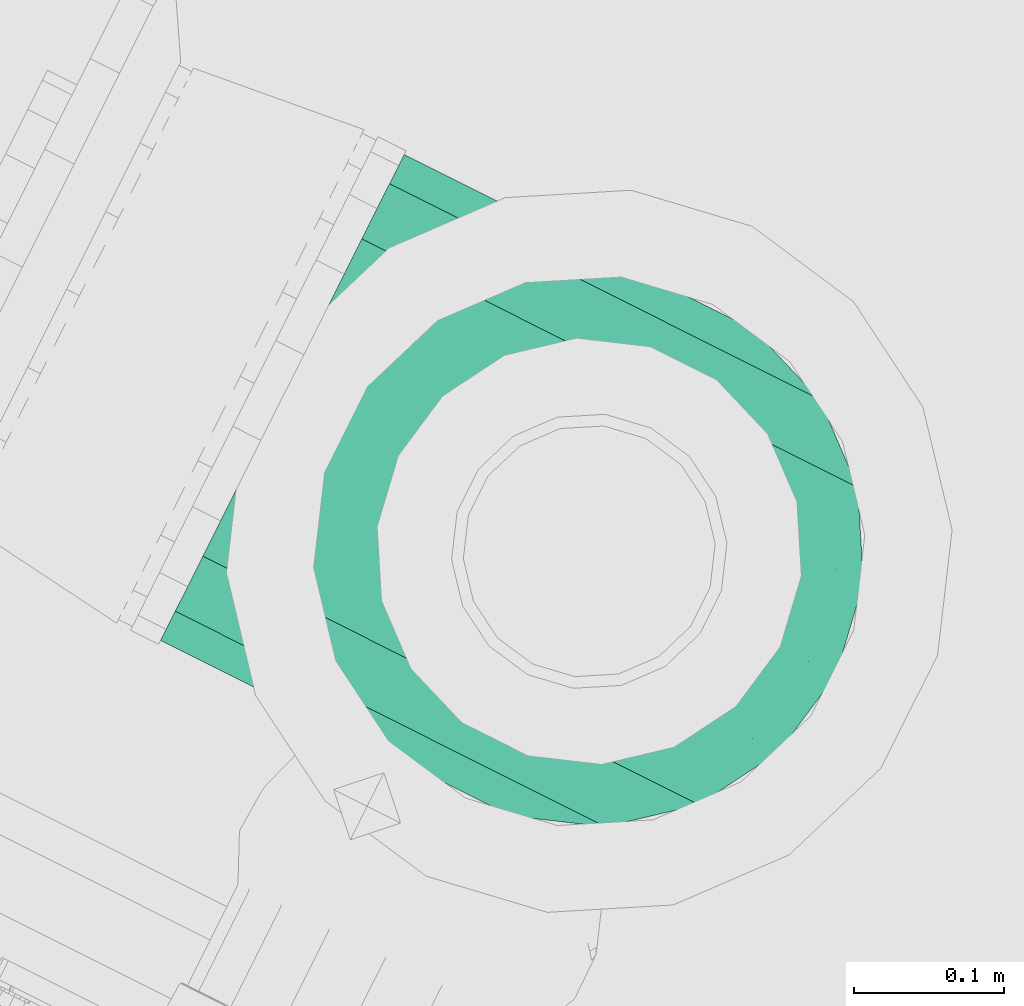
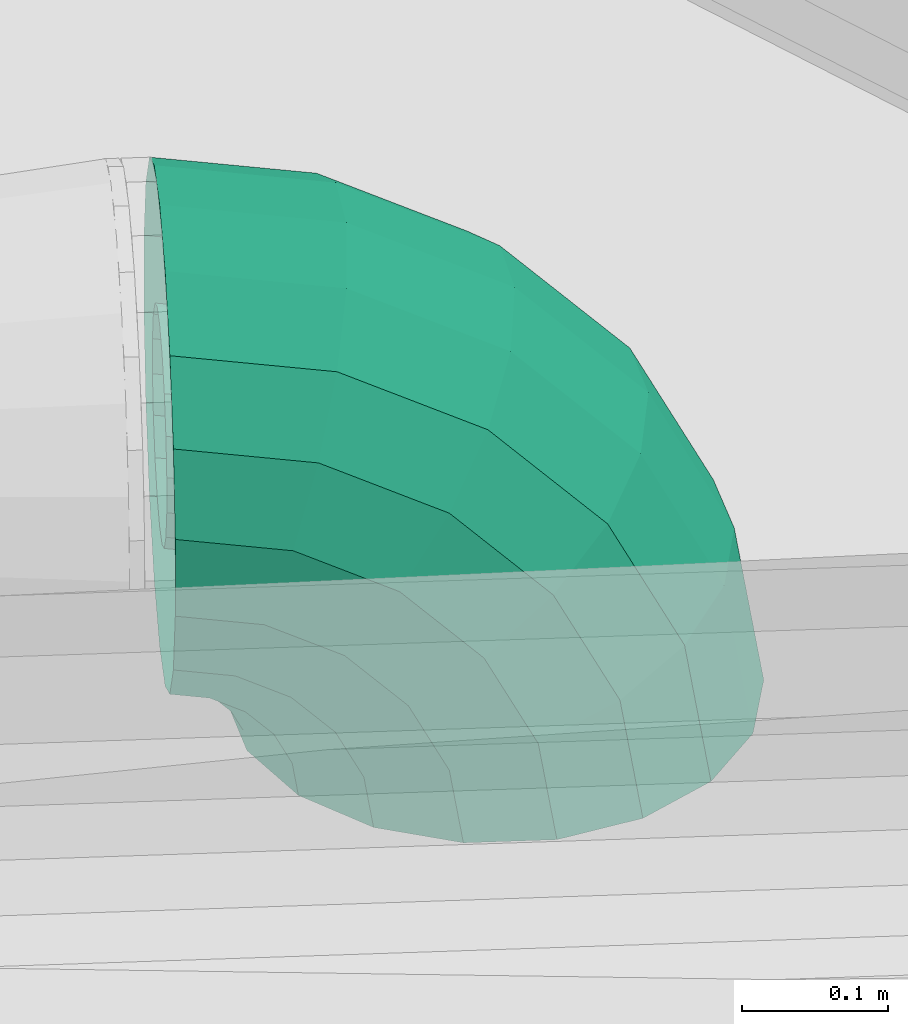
# One storey, part 62 of 206: 1 flow segment.
"""IFC2X3 building model written with IfcOpenShell, lengths in metres."""

from ifc_helpers import new_model, si_unit, derived_unit, direction, frame, origin, place, context, subcontext, project, spatial, face_set, surface_model, source, transform, mapped, material, type_object, type_shapes, element, save


model = new_model("IFC2X3")

# Units and contexts
model_context = context("Model", 3, precision=5.2338327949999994e-05, world=origin(), true_north=direction((0.0, 1.0)))
body_context = subcontext(model_context, "Body", "Model", "MODEL_VIEW")
ifc_project = project(units=[si_unit("LENGTHUNIT", "METRE"), si_unit("AREAUNIT", "SQUARE_METRE"), si_unit("VOLUMEUNIT", "CUBIC_METRE"), si_unit("MASSUNIT", "GRAM", prefix="KILO"), si_unit("PLANEANGLEUNIT", "RADIAN"), derived_unit("THERMALTRANSMITTANCEUNIT", [(si_unit("MASSUNIT", "GRAM", prefix="KILO"), 1), (si_unit("THERMODYNAMICTEMPERATUREUNIT", "KELVIN"), -1), (si_unit("TIMEUNIT", "SECOND"), -3)])], contexts=[model_context])

# Site, building, storey
site_placement = place(None, frame((0.0, 0.0, 0.0), z_axis=(0.0, 0.0, 1.0), x_axis=(0.8939966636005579, -0.4480736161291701, 0.0)))
site = spatial("IfcSite", under=ifc_project, at=site_placement, Name="Default", CompositionType="ELEMENT")
building_placement = place(site_placement, origin())
building = spatial("IfcBuilding", under=site, at=building_placement, CompositionType="ELEMENT")
storey_placement = place(building_placement, origin())
storey = spatial("IfcBuildingStorey", under=building, at=storey_placement, Name="Erdgeschoss", CompositionType="ELEMENT", Elevation=0.0)

# Flow segment
ifc_material = material(Name="IfcSurfaceStyle #1741")
distribution_element_type = type_object("IfcDistributionElementType", Name="Rohrbogen 340696:Rohrbogen 340696", material=ifc_material)
shared_shape = source(origin(), body_context, "Body", "SurfaceModel", [
    surface_model("IfcFaceBasedSurfaceModel", [(26.300823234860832, 5.3959610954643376, 2.4381500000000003), (26.300823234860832, 5.367180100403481, 2.4330751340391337), (26.396023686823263, 5.367180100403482, 2.4179968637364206), (26.39759190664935, 5.395961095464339, 2.4228233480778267), (26.481905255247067, 5.367180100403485, 2.374238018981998), (26.484888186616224, 5.395961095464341, 2.3783436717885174), (26.550061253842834, 5.367180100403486, 2.306082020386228), (26.554166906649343, 5.395961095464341, 2.3090649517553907), (26.593820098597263, 5.367180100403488, 2.2202004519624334), (26.59864658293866, 5.395961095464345, 2.2217686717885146), (26.608898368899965, 5.36718010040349, 2.1249999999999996), (26.613973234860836, 5.3959610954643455, 2.1250000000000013), (26.300823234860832, 5.341870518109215, 2.41846263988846), (26.391508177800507, 5.341870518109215, 2.4040995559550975), (26.47331624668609, 5.341870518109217, 2.3624162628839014), (26.538239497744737, 5.341870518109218, 2.2974930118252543), (26.579922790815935, 5.341870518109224, 2.2156849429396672), (26.594285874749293, 5.341870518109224, 2.125), (26.300823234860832, 5.323085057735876, 2.3960750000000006), (26.384590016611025, 5.323085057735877, 2.3828076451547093), (26.460157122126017, 5.323085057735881, 2.3443042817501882), (26.520127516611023, 5.32308505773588, 2.2843338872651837), (26.558630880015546, 5.32308505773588, 2.2087667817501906), (26.57189823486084, 5.3230850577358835, 2.1249999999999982), (26.300823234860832, 5.313089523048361, 2.368612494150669), (26.37610363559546, 5.313089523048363, 2.3566892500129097), (26.444015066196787, 5.313089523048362, 2.322086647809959), (26.49790988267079, 5.313089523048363, 2.2681918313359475), (26.532512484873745, 5.313089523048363, 2.200280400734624), (26.544435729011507, 5.313089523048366, 2.1249999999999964), (26.300823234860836, 5.313089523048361, 2.3393875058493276), (26.367072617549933, 5.313089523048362, 2.3288946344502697), (26.426837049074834, 5.313089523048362, 2.298443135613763), (26.4742663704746, 5.313089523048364, 2.251013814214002), (26.504717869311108, 5.313089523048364, 2.1912493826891), (26.515210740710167, 5.313089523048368, 2.1249999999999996), (26.300823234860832, 5.323085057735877, 2.3119249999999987), (26.35858623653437, 5.323085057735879, 2.30277623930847), (26.410694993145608, 5.323085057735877, 2.2762255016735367), (26.452048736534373, 5.323085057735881, 2.234871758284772), (26.478599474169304, 5.3230850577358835, 2.182763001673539), (26.487748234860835, 5.323085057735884, 2.1250000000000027), (26.300823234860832, 5.341870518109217, 2.289537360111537), (26.351668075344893, 5.341870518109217, 2.281484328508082), (26.397535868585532, 5.3418705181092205, 2.258113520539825), (26.433936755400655, 5.34187051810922, 2.221712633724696), (26.457307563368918, 5.341870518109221, 2.1758448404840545), (26.46536059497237, 5.341870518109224, 2.1249999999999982), (26.300823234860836, 5.367180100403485, 2.2749248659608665), (26.347152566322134, 5.367180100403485, 2.267587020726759), (26.388946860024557, 5.367180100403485, 2.246291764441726), (26.42211499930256, 5.367180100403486, 2.2131236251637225), (26.443410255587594, 5.367180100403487, 2.1713293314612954), (26.450748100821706, 5.367180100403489, 2.125000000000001), (26.300823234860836, 5.395961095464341, 2.2698500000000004), (26.345584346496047, 5.395961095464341, 2.2627605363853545), (26.385963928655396, 5.395961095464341, 2.24218611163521), (26.418009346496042, 5.395961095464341, 2.210140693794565), (26.438583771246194, 5.395961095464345, 2.169761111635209), (26.445673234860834, 5.395961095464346, 2.1249999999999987), (26.300823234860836, 5.424742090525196, 2.274924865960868), (26.347152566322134, 5.424742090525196, 2.2675870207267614), (26.388946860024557, 5.424742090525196, 2.246291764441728), (26.42211499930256, 5.424742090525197, 2.2131236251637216), (26.4434102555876, 5.424742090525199, 2.171329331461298), (26.450748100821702, 5.424742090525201, 2.1250000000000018), (26.300823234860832, 5.450051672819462, 2.2895373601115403), (26.351668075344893, 5.450051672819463, 2.281484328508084), (26.397535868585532, 5.450051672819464, 2.258113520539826), (26.433936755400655, 5.450051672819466, 2.2217126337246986), (26.457307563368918, 5.450051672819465, 2.1758448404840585), (26.46536059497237, 5.450051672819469, 2.125), (26.300823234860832, 5.468837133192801, 2.3119250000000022), (26.35858623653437, 5.468837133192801, 2.302776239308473), (26.410694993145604, 5.468837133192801, 2.2762255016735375), (26.452048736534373, 5.468837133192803, 2.2348717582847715), (26.478599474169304, 5.468837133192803, 2.182763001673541), (26.487748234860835, 5.468837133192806, 2.125000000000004), (26.300823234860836, 5.478832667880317, 2.339387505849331), (26.367072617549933, 5.478832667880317, 2.3288946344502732), (26.426837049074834, 5.478832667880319, 2.2984431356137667), (26.4742663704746, 5.47883266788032, 2.251013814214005), (26.504717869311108, 5.4788326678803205, 2.191249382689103), (26.515210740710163, 5.478832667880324, 2.125000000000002), (26.300823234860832, 5.478832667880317, 2.368612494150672), (26.37610363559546, 5.478832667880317, 2.3566892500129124), (26.444015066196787, 5.478832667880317, 2.3220866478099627), (26.49790988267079, 5.47883266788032, 2.26819183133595), (26.532512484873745, 5.478832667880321, 2.2002804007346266), (26.544435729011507, 5.478832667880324, 2.125), (26.300823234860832, 5.4688371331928, 2.3960750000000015), (26.384590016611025, 5.4688371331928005, 2.3828076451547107), (26.460157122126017, 5.4688371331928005, 2.3443042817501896), (26.520127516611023, 5.468837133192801, 2.284333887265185), (26.558630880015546, 5.468837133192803, 2.208766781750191), (26.57189823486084, 5.468837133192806, 2.125), (26.300823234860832, 5.450051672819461, 2.4184626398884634), (26.391508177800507, 5.450051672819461, 2.404099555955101), (26.47331624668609, 5.450051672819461, 2.3624162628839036), (26.538239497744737, 5.450051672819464, 2.2974930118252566), (26.579922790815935, 5.450051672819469, 2.215684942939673), (26.594285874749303, 5.450051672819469, 2.1250000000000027), (26.300823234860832, 5.424742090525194, 2.4330751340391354), (26.396023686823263, 5.424742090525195, 2.4179968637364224), (26.481905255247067, 5.4247420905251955, 2.3742380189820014), (26.55006125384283, 5.424742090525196, 2.3060820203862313), (26.593820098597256, 5.424742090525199, 2.2202004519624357), (26.60889836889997, 5.4247420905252, 2.1250000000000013), (26.300823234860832, 5.395961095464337, 2.538149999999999), (26.300823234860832, 5.332978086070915, 2.5270443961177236), (26.425061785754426, 5.3329780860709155, 2.50736694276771), (26.428493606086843, 5.395961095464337, 2.5179289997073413), (26.53713900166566, 5.3329780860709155, 2.450260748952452), (26.543666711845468, 5.3959610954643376, 2.4592453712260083), (26.626083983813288, 5.332978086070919, 2.36131576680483), (26.635068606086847, 5.39596109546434, 2.3678434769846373), (26.683190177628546, 5.332978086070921, 2.2492385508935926), (26.69375223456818, 5.395961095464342, 2.2526703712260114), (26.702867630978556, 5.332978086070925, 2.125000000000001), (26.713973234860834, 5.395961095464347, 2.124999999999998), (26.300823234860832, 5.277591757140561, 2.495067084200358), (26.415180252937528, 5.277591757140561, 2.4769547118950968), (26.518343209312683, 5.277591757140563, 2.424390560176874), (26.600213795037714, 5.277591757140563, 2.3425199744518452), (26.65277794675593, 5.277591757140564, 2.239357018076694), (26.670890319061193, 5.277591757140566, 2.1249999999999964), (26.300823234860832, 5.236482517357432, 2.446074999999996), (26.400040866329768, 5.236482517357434, 2.430360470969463), (26.489546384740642, 5.2364825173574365, 2.3847551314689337), (26.560578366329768, 5.236482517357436, 2.3137231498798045), (26.606183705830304, 5.236482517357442, 2.2242176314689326), (26.62189823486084, 5.236482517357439, 2.1249999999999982), (26.300823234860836, 5.214608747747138, 2.385977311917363), (26.381469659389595, 5.214608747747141, 2.3732041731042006), (26.454221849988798, 5.214608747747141, 2.336135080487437), (26.511958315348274, 5.214608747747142, 2.2783986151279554), (26.54902740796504, 5.214608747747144, 2.205646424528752), (26.5618005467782, 5.214608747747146, 2.124999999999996), (26.300823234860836, 5.214608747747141, 2.32202268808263), (26.3617065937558, 5.214608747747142, 2.312379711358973), (26.41663026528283, 5.214608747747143, 2.2843947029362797), (26.460217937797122, 5.214608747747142, 2.2408070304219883), (26.48820294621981, 5.214608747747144, 2.1858833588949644), (26.497845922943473, 5.214608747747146, 2.1249999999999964), (26.300823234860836, 5.236482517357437, 2.261924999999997), (26.343135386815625, 5.236482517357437, 2.2552234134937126), (26.38130573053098, 5.236482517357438, 2.2357746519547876), (26.411597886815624, 5.236482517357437, 2.205482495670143), (26.43104664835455, 5.236482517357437, 2.1673121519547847), (26.437748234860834, 5.236482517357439, 2.1249999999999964), (26.300823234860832, 5.277591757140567, 2.2129329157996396), (26.327996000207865, 5.277591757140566, 2.20862917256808), (26.35250890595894, 5.2775917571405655, 2.19613922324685), (26.371962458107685, 5.277591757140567, 2.176685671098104), (26.384452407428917, 5.277591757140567, 2.1521727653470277), (26.38875615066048, 5.277591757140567, 2.125), (26.300823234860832, 5.332978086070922, 2.180955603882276), (26.31811446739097, 5.332978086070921, 2.1782169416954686), (26.33371311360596, 5.332978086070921, 2.1702690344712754), (26.346092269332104, 5.332978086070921, 2.157889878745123), (26.354040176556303, 5.332978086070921, 2.1422912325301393), (26.356778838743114, 5.3329780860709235, 2.1250000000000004), (26.300823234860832, 5.395961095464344, 2.1698500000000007), (26.314682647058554, 5.395961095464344, 2.1676548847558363), (26.327185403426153, 5.395961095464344, 2.1612844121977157), (26.337107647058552, 5.395961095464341, 2.1513621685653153), (26.34347811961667, 5.395961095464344, 2.1388594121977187), (26.345673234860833, 5.3959610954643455, 2.1249999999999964), (26.300823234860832, 5.458944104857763, 2.1809556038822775), (26.31811446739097, 5.458944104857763, 2.1782169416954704), (26.33371311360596, 5.458944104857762, 2.1702690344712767), (26.346092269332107, 5.458944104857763, 2.1578898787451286), (26.354040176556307, 5.458944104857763, 2.1422912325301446), (26.356778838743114, 5.458944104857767, 2.1250000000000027), (26.300823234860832, 5.5143304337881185, 2.2129329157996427), (26.327996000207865, 5.514330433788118, 2.208629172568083), (26.35250890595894, 5.514330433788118, 2.196139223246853), (26.371962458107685, 5.514330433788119, 2.176685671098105), (26.384452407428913, 5.514330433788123, 2.1521727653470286), (26.38875615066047, 5.51433043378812, 2.125000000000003), (26.300823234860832, 5.555439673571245, 2.2619250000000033), (26.34313538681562, 5.555439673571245, 2.2552234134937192), (26.38130573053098, 5.555439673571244, 2.2357746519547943), (26.41159788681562, 5.555439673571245, 2.20548249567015), (26.43104664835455, 5.555439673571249, 2.167312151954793), (26.437748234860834, 5.555439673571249, 2.125000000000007), (26.300823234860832, 5.577313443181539, 2.3220226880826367), (26.361706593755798, 5.57731344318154, 2.3123797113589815), (26.41663026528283, 5.57731344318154, 2.284394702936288), (26.46021793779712, 5.5773134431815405, 2.240807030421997), (26.48820294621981, 5.577313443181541, 2.185883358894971), (26.497845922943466, 5.577313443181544, 2.1250000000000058), (26.300823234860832, 5.577313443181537, 2.3859773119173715), (26.38146965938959, 5.577313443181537, 2.373204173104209), (26.45422184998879, 5.577313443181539, 2.336135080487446), (26.51195831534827, 5.577313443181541, 2.2783986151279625), (26.549027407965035, 5.577313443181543, 2.2056464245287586), (26.561800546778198, 5.577313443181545, 2.1250000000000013), (26.300823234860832, 5.55543967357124, 2.4460750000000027), (26.400040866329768, 5.555439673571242, 2.430360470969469), (26.489546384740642, 5.555439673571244, 2.3847551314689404), (26.560578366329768, 5.555439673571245, 2.3137231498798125), (26.606183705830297, 5.555439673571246, 2.224217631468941), (26.621898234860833, 5.555439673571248, 2.125000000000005), (26.300823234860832, 5.5143304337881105, 2.4950670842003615), (26.415180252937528, 5.514330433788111, 2.4769547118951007), (26.518343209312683, 5.514330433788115, 2.4243905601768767), (26.60021379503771, 5.514330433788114, 2.342519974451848), (26.65277794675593, 5.514330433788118, 2.239357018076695), (26.67089031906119, 5.514330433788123, 2.1250000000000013), (26.300823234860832, 5.458944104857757, 2.5270443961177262), (26.425061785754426, 5.458944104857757, 2.507366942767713), (26.53713900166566, 5.45894410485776, 2.450260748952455), (26.626083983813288, 5.458944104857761, 2.361315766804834), (26.683190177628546, 5.458944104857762, 2.249238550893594), (26.702867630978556, 5.458944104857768, 2.1250000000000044)], [face_set([[[0, 1, 2, 3]], [[3, 2, 4, 5]], [[5, 4, 6, 7]], [[7, 6, 8, 9]], [[9, 8, 10, 11]], [[1, 12, 13, 2]], [[2, 13, 14, 4]], [[4, 14, 15, 6]], [[6, 15, 16, 8]], [[8, 16, 17, 10]], [[12, 18, 19, 13]], [[13, 19, 20, 14]], [[14, 20, 21, 15]], [[15, 21, 22, 16]], [[16, 22, 23, 17]], [[18, 24, 25, 19]], [[19, 25, 26, 20]], [[20, 26, 27, 21]], [[21, 27, 28, 22]], [[22, 28, 29, 23]], [[24, 30, 31, 25]], [[25, 31, 32, 26]], [[26, 32, 33, 27]], [[27, 33, 34, 28]], [[28, 34, 35, 29]], [[30, 36, 37, 31]], [[31, 37, 38, 32]], [[32, 38, 39, 33]], [[33, 39, 40, 34]], [[34, 40, 41, 35]], [[36, 42, 43, 37]], [[37, 43, 44, 38]], [[38, 44, 45, 39]], [[39, 45, 46, 40]], [[40, 46, 47, 41]], [[42, 48, 49, 43]], [[43, 49, 50, 44]], [[44, 50, 51, 45]], [[45, 51, 52, 46]], [[46, 52, 53, 47]], [[48, 54, 55, 49]], [[49, 55, 56, 50]], [[50, 56, 57, 51]], [[51, 57, 58, 52]], [[52, 58, 59, 53]], [[54, 60, 61, 55]], [[55, 61, 62, 56]], [[56, 62, 63, 57]], [[57, 63, 64, 58]], [[58, 64, 65, 59]], [[60, 66, 67, 61]], [[61, 67, 68, 62]], [[62, 68, 69, 63]], [[63, 69, 70, 64]], [[64, 70, 71, 65]], [[66, 72, 73, 67]], [[67, 73, 74, 68]], [[68, 74, 75, 69]], [[69, 75, 76, 70]], [[70, 76, 77, 71]], [[72, 78, 79, 73]], [[73, 79, 80, 74]], [[74, 80, 81, 75]], [[75, 81, 82, 76]], [[76, 82, 83, 77]], [[78, 84, 85, 79]], [[79, 85, 86, 80]], [[80, 86, 87, 81]], [[81, 87, 88, 82]], [[82, 88, 89, 83]], [[84, 90, 91, 85]], [[85, 91, 92, 86]], [[86, 92, 93, 87]], [[87, 93, 94, 88]], [[88, 94, 95, 89]], [[90, 96, 97, 91]], [[91, 97, 98, 92]], [[92, 98, 99, 93]], [[93, 99, 100, 94]], [[94, 100, 101, 95]], [[96, 102, 103, 97]], [[97, 103, 104, 98]], [[98, 104, 105, 99]], [[99, 105, 106, 100]], [[100, 106, 107, 101]], [[102, 0, 3, 103]], [[103, 3, 5, 104]], [[104, 5, 7, 105]], [[105, 7, 9, 106]], [[106, 9, 11, 107]], [[108, 109, 110, 111]], [[111, 110, 112, 113]], [[113, 112, 114, 115]], [[115, 114, 116, 117]], [[117, 116, 118, 119]], [[109, 120, 121, 110]], [[110, 121, 122, 112]], [[112, 122, 123, 114]], [[114, 123, 124, 116]], [[116, 124, 125, 118]], [[120, 126, 127, 121]], [[121, 127, 128, 122]], [[122, 128, 129, 123]], [[123, 129, 130, 124]], [[124, 130, 131, 125]], [[126, 132, 133, 127]], [[127, 133, 134, 128]], [[128, 134, 135, 129]], [[129, 135, 136, 130]], [[130, 136, 137, 131]], [[132, 138, 139, 133]], [[133, 139, 140, 134]], [[134, 140, 141, 135]], [[135, 141, 142, 136]], [[136, 142, 143, 137]], [[138, 144, 145, 139]], [[139, 145, 146, 140]], [[140, 146, 147, 141]], [[141, 147, 148, 142]], [[142, 148, 149, 143]], [[144, 150, 151, 145]], [[145, 151, 152, 146]], [[146, 152, 153, 147]], [[147, 153, 154, 148]], [[148, 154, 155, 149]], [[150, 156, 157, 151]], [[151, 157, 158, 152]], [[152, 158, 159, 153]], [[153, 159, 160, 154]], [[154, 160, 161, 155]], [[156, 162, 163, 157]], [[157, 163, 164, 158]], [[158, 164, 165, 159]], [[159, 165, 166, 160]], [[160, 166, 167, 161]], [[162, 168, 169, 163]], [[163, 169, 170, 164]], [[164, 170, 171, 165]], [[165, 171, 172, 166]], [[166, 172, 173, 167]], [[168, 174, 175, 169]], [[169, 175, 176, 170]], [[170, 176, 177, 171]], [[171, 177, 178, 172]], [[172, 178, 179, 173]], [[174, 180, 181, 175]], [[175, 181, 182, 176]], [[176, 182, 183, 177]], [[177, 183, 184, 178]], [[178, 184, 185, 179]], [[180, 186, 187, 181]], [[181, 187, 188, 182]], [[182, 188, 189, 183]], [[183, 189, 190, 184]], [[184, 190, 191, 185]], [[186, 192, 193, 187]], [[187, 193, 194, 188]], [[188, 194, 195, 189]], [[189, 195, 196, 190]], [[190, 196, 197, 191]], [[192, 198, 199, 193]], [[193, 199, 200, 194]], [[194, 200, 201, 195]], [[195, 201, 202, 196]], [[196, 202, 203, 197]], [[198, 204, 205, 199]], [[199, 205, 206, 200]], [[200, 206, 207, 201]], [[201, 207, 208, 202]], [[202, 208, 209, 203]], [[204, 210, 211, 205]], [[205, 211, 212, 206]], [[206, 212, 213, 207]], [[207, 213, 214, 208]], [[208, 214, 215, 209]], [[210, 108, 111, 211]], [[211, 111, 113, 212]], [[212, 113, 115, 213]], [[213, 115, 117, 214]], [[214, 117, 119, 215]]])]),
])
type_shapes(distribution_element_type, [shared_shape])
flow_segment_placement = place(storey_placement, origin())
element("IfcFlowSegment", 1, at=flow_segment_placement, inside=storey, type_object=distribution_element_type, material=ifc_material, Name="Rohrbogen", ObjectType="Rohrbogen", context=body_context, shape_type="MappedRepresentation", body=[
    mapped(shared_shape, transform((0.0, 0.0, 0.0), scale=1.0)),
])

save(model, "model.ifc")
